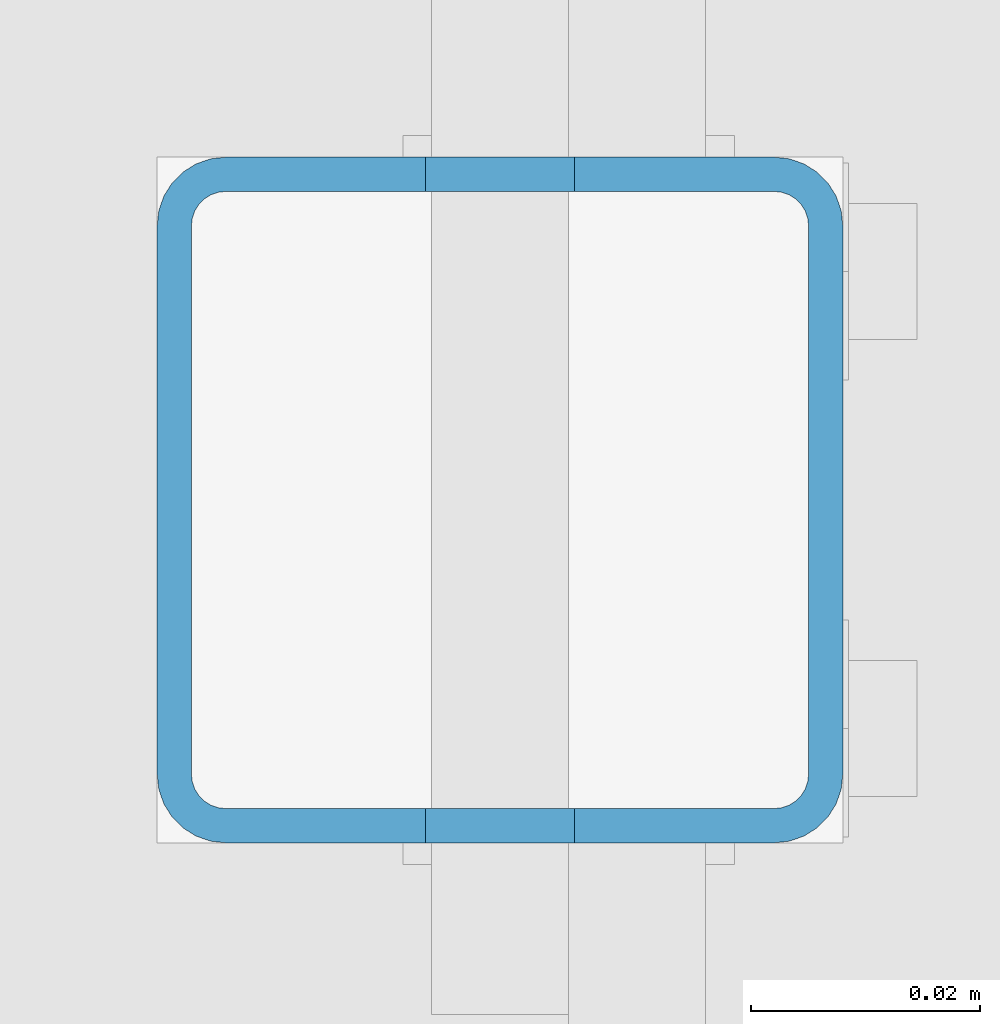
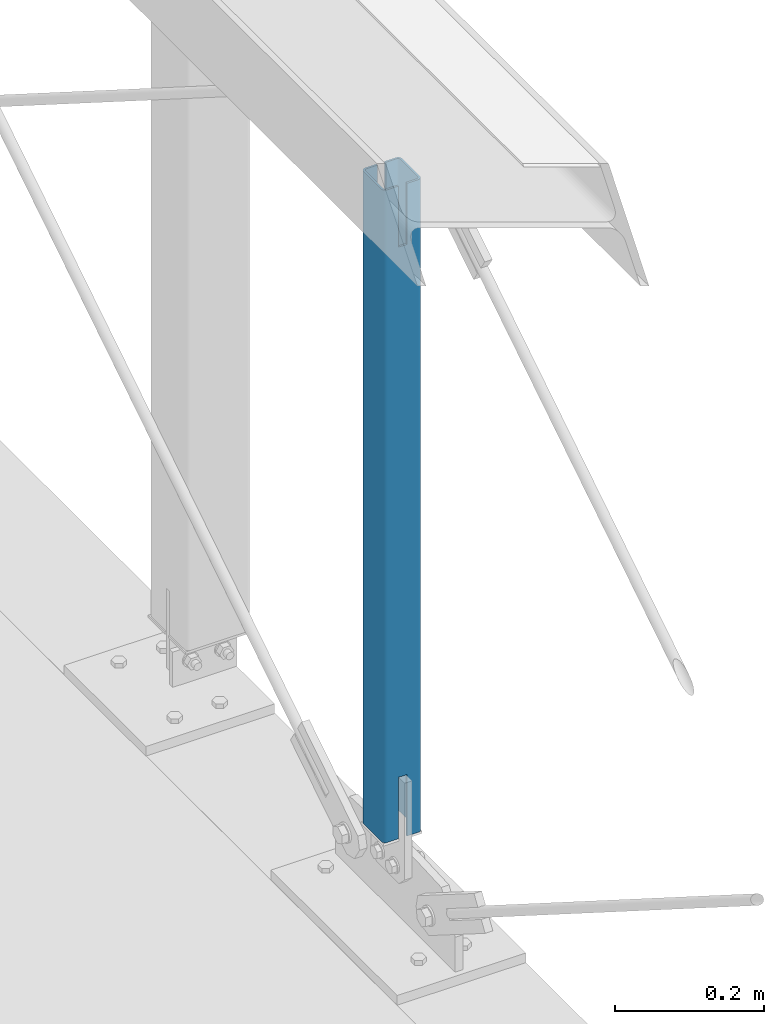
# One storey, part 44 of 271: 1 beam, 1 element without a shape of its own.
"""IFC2X3 building model written with IfcOpenShell, lengths in millimetres."""

from ifc_helpers import new_model, si_unit, frame, origin_with_axes, origin_2d_with_axis, place, context, subcontext, project, spatial, rectangle, hollow_rectangle, extrude, boolean, halfspace, material, type_object, element, aggregate, save


model = new_model("IFC2X3")

# Units and contexts
model_context = context("Model", 3, precision=1e-05, world=origin_with_axes())
body_context = subcontext(model_context, "Body", "Model", "MODEL_VIEW")
ifc_project = project(units=[si_unit("LENGTHUNIT", "METRE", prefix="MILLI"), si_unit("AREAUNIT", "SQUARE_METRE"), si_unit("VOLUMEUNIT", "CUBIC_METRE"), si_unit("MASSUNIT", "GRAM", prefix="KILO"), si_unit("TIMEUNIT", "SECOND"), si_unit("PLANEANGLEUNIT", "RADIAN"), si_unit("SOLIDANGLEUNIT", "STERADIAN"), si_unit("THERMODYNAMICTEMPERATUREUNIT", "DEGREE_CELSIUS"), si_unit("LUMINOUSINTENSITYUNIT", "LUMEN")], contexts=[model_context])

# Site, building, storey
site_placement = place(None, origin_with_axes())
site = spatial("IfcSite", under=ifc_project, at=site_placement, Name="Undefined", CompositionType="ELEMENT")
building_placement = place(site_placement, origin_with_axes())
building = spatial("IfcBuilding", under=site, at=building_placement, Name="Undefined", CompositionType="ELEMENT")
storey_placement = place(building_placement, origin_with_axes())
storey = spatial("IfcBuildingStorey", under=building, at=storey_placement, Name="Undefined", CompositionType="ELEMENT", Elevation=0.0)

# Assembly, beam
assembly_placement = place(storey_placement, origin_with_axes())
assembly = element("IfcElementAssembly", 1, at=assembly_placement, inside=storey, AssemblyPlace="NOTDEFINED", PredefinedType="RIGID_FRAME")
ifc_material = material(Name="STEEL/S355JR")
beam_type = type_object("IfcBeamType", Name="SHS60*3", PredefinedType="NOTDEFINED")
beam_placement = place(assembly_placement, frame((12597.751374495, 2179.19355050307, -2.65000009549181), z_axis=(0.0, 1.0, 0.0), x_axis=(0.0, 0.0, 1.0)))
beam = element("IfcBeam", 2, at=beam_placement, type_object=beam_type, material=ifc_material, Name="TĘŻNIK", ObjectType="SHS60*3", context=body_context, shape_type="CSG", body=[
    boolean("DIFFERENCE", boolean("DIFFERENCE", boolean("DIFFERENCE", boolean("DIFFERENCE", extrude(hollow_rectangle(XDim=60.0, YDim=60.0, WallThickness=3.0, InnerFilletRadius=3.0, OuterFilletRadius=6.0, at=origin_2d_with_axis()), frame((1367.0, 0.0, 0.0), z_axis=(-1.0, 0.0, 1.38777878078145e-17), x_axis=(0.0, -1.0, 0.0)), (0.0, 0.0, 1.0), 1367.0), extrude(rectangle(XDim=13.0, YDim=64.0, at=origin_2d_with_axis()), frame((247.881323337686, -3.08251401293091e-07, 0.0), z_axis=(-1.0, 0.0, 1.38777878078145e-17), x_axis=(0.0, 1.0, 0.0)), (0.0, 0.0, 1.0), 103.0)), extrude(rectangle(XDim=13.0, YDim=64.0, at=origin_2d_with_axis()), frame((1118.70000004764, 3.08249582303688e-07, 0.0), z_axis=(1.0, 0.0, 0.0), x_axis=(0.0, 1.0, 0.0)), (0.0, 0.0, 1.0), 103.0)), halfspace(frame((1218.89585423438, 18.0000003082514, 0.0), z_axis=(-1.0, 0.0, 1.38777878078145e-17), x_axis=(0.0, 0.0, 1.0)), True)), halfspace(frame((146.881323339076, 18.0000003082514, 0.0), z_axis=(1.0, 0.0, 0.0), x_axis=(0.0, 0.0, -1.0)), True)),
])
aggregate(assembly, [beam])

save(model, "model.ifc")
